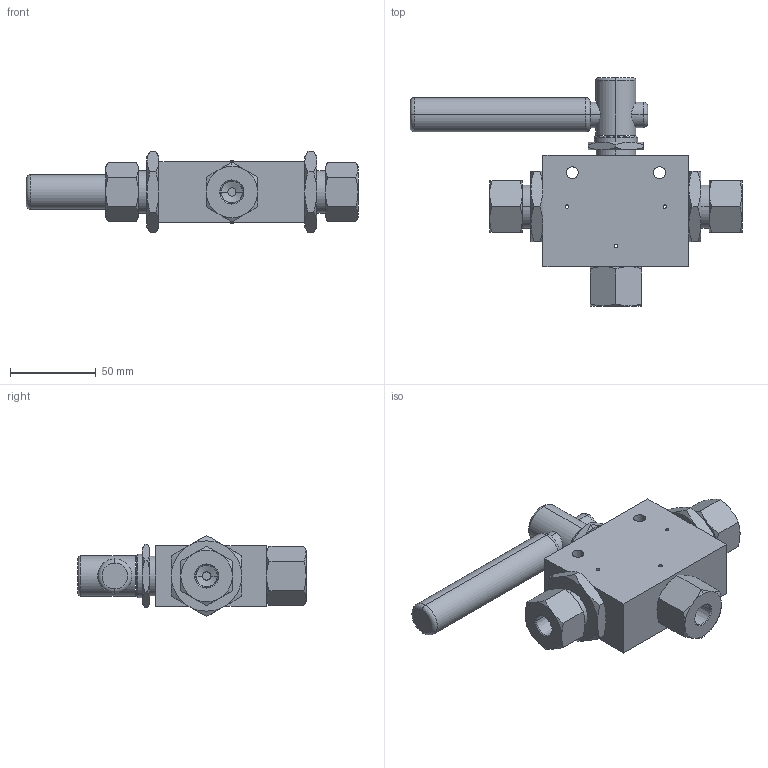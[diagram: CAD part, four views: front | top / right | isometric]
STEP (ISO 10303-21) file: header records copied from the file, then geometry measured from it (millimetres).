
FILE_DESCRIPTION (( 'STEP AP203' ), '1' );
FILE_NAME ('BVP05S04-3-180.STEP', '2022-04-12T10:51:31', ( '' ), ( '' ), 'SwSTEP 2.0', 'SolidWorks 2020', '' );
FILE_SCHEMA (( 'CONFIG_CONTROL_DESIGN' ));
Length unit declared in the file: millimetre
Products named in the file (1): BVP05S04-3-180
Bounding box: 193.5 x 133 x 47.34 mm (x, y, z)
Volume: 311818.4 mm3; surface area: 48905.6 mm2
Topology: 1 solids, 1 shells, 207 faces, 462 edges, 272 vertices
Faces by surface type: cone 96, plane 65, cylinder 38, torus 8
Entity records: 6621 total; most frequent: CARTESIAN_POINT 2098, ORIENTED_EDGE 924, DIRECTION 918, EDGE_CURVE 462, AXIS2_PLACEMENT_3D 400, VERTEX_POINT 272, EDGE_LOOP 236, ADVANCED_FACE 207
